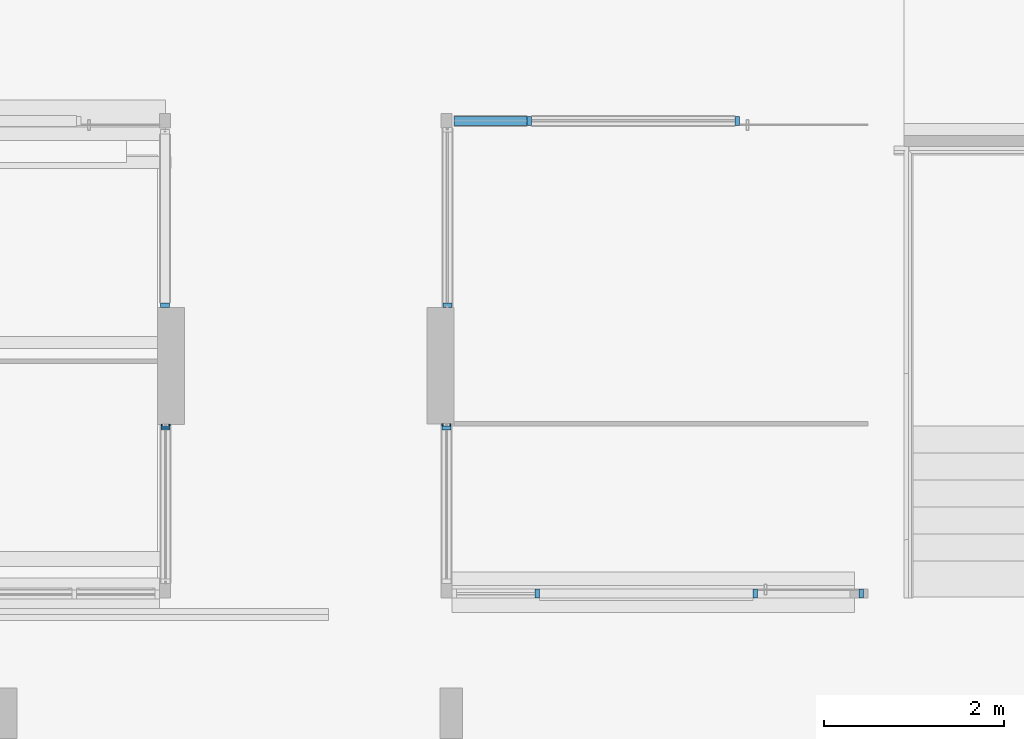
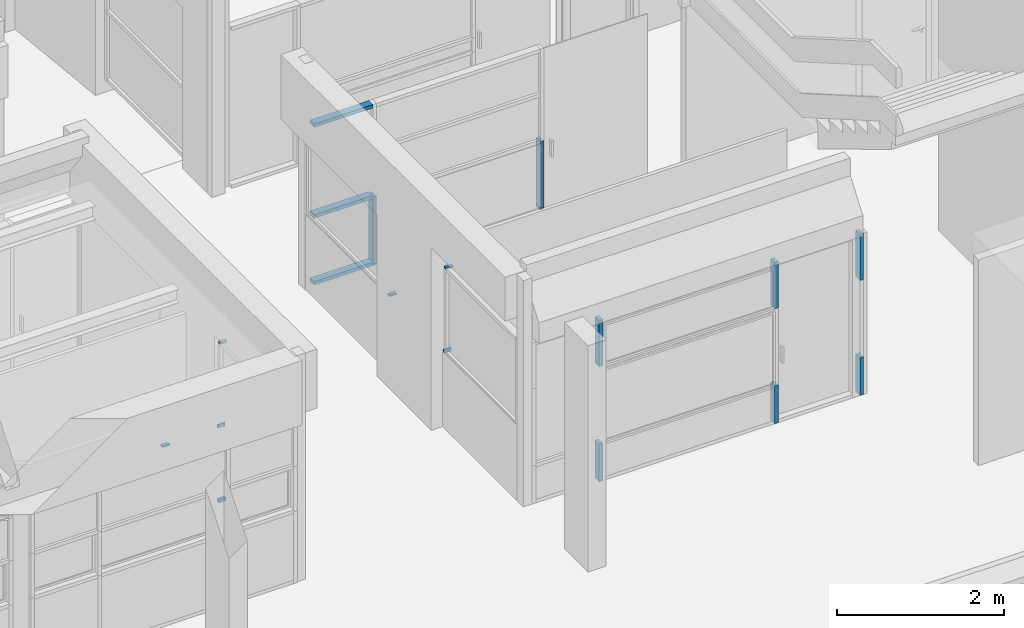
# One storey, part 24 of 117: 20 members, 6 elements without a shape of their own.
"""IFC4 building model written with IfcOpenShell, lengths in metres."""

from ifc_helpers import new_model, entity, si_unit, converted_unit, derived_unit, direction, frame, origin, place, context, subcontext, project, spatial, indexed_curve, outline, extrude, source, transform, mapped, material, type_object, type_shapes, element, aggregate, save


model = new_model("IFC4")

# Units and contexts
model_context = context("Model", 3, precision=1e-05, world=origin(), true_north=direction((6.123031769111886e-17, 1.0)))
body_context = subcontext(model_context, "Body", "Model", "MODEL_VIEW")
ifc_project = project(units=[si_unit("LENGTHUNIT", "METRE"), si_unit("AREAUNIT", "SQUARE_METRE"), si_unit("VOLUMEUNIT", "CUBIC_METRE"), converted_unit("PLANEANGLEUNIT", "DEGREE", entity("IfcRatioMeasure", 0.017453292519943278), si_unit("PLANEANGLEUNIT", "RADIAN"), dimensions=[0, 0, 0, 0, 0, 0, 0]), si_unit("MASSUNIT", "GRAM", prefix="KILO"), derived_unit("MASSDENSITYUNIT", [(si_unit("MASSUNIT", "GRAM", prefix="KILO"), 1), (si_unit("LENGTHUNIT", "METRE"), -3)]), derived_unit("MOMENTOFINERTIAUNIT", [(si_unit("LENGTHUNIT", "METRE"), 4)]), si_unit("TIMEUNIT", "SECOND"), si_unit("FREQUENCYUNIT", "HERTZ"), si_unit("THERMODYNAMICTEMPERATUREUNIT", "DEGREE_CELSIUS"), derived_unit("THERMALTRANSMITTANCEUNIT", [(si_unit("MASSUNIT", "GRAM", prefix="KILO"), 1), (si_unit("THERMODYNAMICTEMPERATUREUNIT", "KELVIN"), -1), (si_unit("TIMEUNIT", "SECOND"), -3)]), derived_unit("VOLUMETRICFLOWRATEUNIT", [(si_unit("LENGTHUNIT", "METRE"), 3), (si_unit("TIMEUNIT", "SECOND"), -1)]), derived_unit("MASSFLOWRATEUNIT", [(si_unit("MASSUNIT", "GRAM", prefix="KILO"), 1), (si_unit("TIMEUNIT", "SECOND"), -1)]), derived_unit("ROTATIONALFREQUENCYUNIT", [(si_unit("TIMEUNIT", "SECOND"), -1)]), si_unit("ELECTRICCURRENTUNIT", "AMPERE"), si_unit("ELECTRICVOLTAGEUNIT", "VOLT"), si_unit("POWERUNIT", "WATT"), si_unit("FORCEUNIT", "NEWTON", prefix="KILO"), si_unit("ILLUMINANCEUNIT", "LUX"), si_unit("LUMINOUSFLUXUNIT", "LUMEN"), si_unit("LUMINOUSINTENSITYUNIT", "CANDELA"), derived_unit("USERDEFINED", [(si_unit("MASSUNIT", "GRAM", prefix="KILO"), -1), (si_unit("LENGTHUNIT", "METRE"), -2), (si_unit("TIMEUNIT", "SECOND"), 3), (si_unit("LUMINOUSFLUXUNIT", "LUMEN"), 1)]), derived_unit("SOUNDPOWERUNIT", [(si_unit("MASSUNIT", "GRAM", prefix="KILO"), 1), (si_unit("LENGTHUNIT", "METRE"), 2), (si_unit("TIMEUNIT", "SECOND"), -3)]), derived_unit("SOUNDPRESSUREUNIT", [(si_unit("MASSUNIT", "GRAM", prefix="KILO"), 1), (si_unit("LENGTHUNIT", "METRE"), -1), (si_unit("TIMEUNIT", "SECOND"), -2)]), derived_unit("LINEARVELOCITYUNIT", [(si_unit("LENGTHUNIT", "METRE"), 1), (si_unit("TIMEUNIT", "SECOND"), -1)]), si_unit("PRESSUREUNIT", "PASCAL"), derived_unit("USERDEFINED", [(si_unit("LENGTHUNIT", "METRE"), -2), (si_unit("MASSUNIT", "GRAM", prefix="KILO"), 1), (si_unit("TIMEUNIT", "SECOND"), -2)]), derived_unit("LINEARFORCEUNIT", [(si_unit("MASSUNIT", "GRAM", prefix="KILO"), 1), (si_unit("LENGTHUNIT", "METRE"), 1), (si_unit("TIMEUNIT", "SECOND"), -2), (si_unit("LENGTHUNIT", "METRE"), -1)]), derived_unit("PLANARFORCEUNIT", [(si_unit("MASSUNIT", "GRAM", prefix="KILO"), 1), (si_unit("LENGTHUNIT", "METRE"), 1), (si_unit("TIMEUNIT", "SECOND"), -2), (si_unit("LENGTHUNIT", "METRE"), -2)])], contexts=[model_context])

# Site, building, storey
site_placement = place(None, origin())
site = spatial("IfcSite", under=ifc_project, at=site_placement, Name="Superficie", CompositionType="ELEMENT")
building_placement = place(site_placement, origin())
building = spatial("IfcBuilding", under=site, at=building_placement, CompositionType="ELEMENT")
storey_placement = place(building_placement, origin())
storey = spatial("IfcBuildingStorey", under=building, at=storey_placement, Name="Nivel 0", CompositionType="ELEMENT", Elevation=0.0)

# Curtain wall, members
curtain_wall_type = type_object("IfcCurtainWallType", Name="Muro cortina:Muro cortina - simple", PredefinedType="NOTDEFINED")
curtain_wall_1_placement = place(storey_placement, origin())
curtain_wall_1 = element("IfcCurtainWall", 1, at=curtain_wall_1_placement, inside=storey, type_object=curtain_wall_type, Name="Muro cortina:Muro cortina - simple", ObjectType="Muro cortina:Muro cortina - simple", PredefinedType="NOTDEFINED")
ifc_material = material(Name="<Unnamed>")
member_type_1 = type_object("IfcMemberType", Name="Montante rectangular:Montante rectangular - 5 x 10 cm", PredefinedType="MULLION", material=ifc_material)
shared_shape_1 = source(origin(), body_context, "Body", "SweptSolid", [
    extrude(outline(indexed_curve([(-0.05, -0.025), (0.05, -0.025), (0.05, 0.025), (-0.05, 0.025), (-0.05, -0.025)], self_intersect=False)), frame((0.0, 0.0, -0.014999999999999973), z_axis=(0.0, 0.0, 1.0), x_axis=(0.0, -1.0, 0.0)), (0.0, 0.0, 1.0), 0.014999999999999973),
])
type_shapes(member_type_1, [shared_shape_1])
member_1_placement = place(curtain_wall_1_placement, frame((12.786799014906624, 0.14082928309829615, 1.1000000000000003), z_axis=(0.0, -1.0, 0.0), x_axis=(0.0, 0.0, 1.0)))
member_1 = element("IfcMember", 2, at=member_1_placement, type_object=member_type_1, material=ifc_material, Name="Montante rectangular:Montante rectangular - 5 x 10 cm", ObjectType="Montante rectangular:Montante rectangular - 5 x 10 cm", PredefinedType="MULLION", context=body_context, shape_type="MappedRepresentation", body=[
    mapped(shared_shape_1, transform((0.0, 0.0, 0.0), scale=1.0)),
])
member_type_2 = type_object("IfcMemberType", Name="Montante rectangular:Montante rectangular - 5 x 10 cm", PredefinedType="MULLION", material=ifc_material)
shared_shape_2 = source(origin(), body_context, "Body", "SweptSolid", [
    extrude(outline(indexed_curve([(-0.05, -0.025), (0.05, -0.025), (0.05, 0.025), (-0.05, 0.025), (-0.05, -0.025)], self_intersect=False)), frame((0.0, 0.0, -0.025), z_axis=(0.0, 0.0, 1.0), x_axis=(0.0, -1.0, 0.0)), (0.0, 0.0, 1.0), 0.025),
])
type_shapes(member_type_2, [shared_shape_2])
member_2_placement = place(curtain_wall_1_placement, frame((12.786799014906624, 0.11582928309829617, 2.3249999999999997), z_axis=(0.0, 0.0, -1.0), x_axis=(0.0, -1.0, 0.0)))
member_2 = element("IfcMember", 3, at=member_2_placement, type_object=member_type_2, material=ifc_material, Name="Montante rectangular:Montante rectangular - 5 x 10 cm", ObjectType="Montante rectangular:Montante rectangular - 5 x 10 cm", PredefinedType="MULLION", context=body_context, shape_type="MappedRepresentation", body=[
    mapped(shared_shape_2, transform((0.0, 0.0, 0.0), scale=1.0)),
])

# Curtain wall, member
curtain_wall_2_placement = place(storey_placement, origin())
curtain_wall_2 = element("IfcCurtainWall", 4, at=curtain_wall_2_placement, inside=storey, type_object=curtain_wall_type, Name="Muro cortina:Muro cortina - simple", ObjectType="Muro cortina:Muro cortina - simple", PredefinedType="NOTDEFINED")
member_3_placement = place(curtain_wall_2_placement, frame((15.906799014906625, 0.11582928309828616, 2.3249999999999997), z_axis=(0.0, 0.0, -1.0), x_axis=(0.0, -1.0, 0.0)))
member_3 = element("IfcMember", 5, at=member_3_placement, type_object=member_type_2, material=ifc_material, Name="Montante rectangular:Montante rectangular - 5 x 10 cm", ObjectType="Montante rectangular:Montante rectangular - 5 x 10 cm", PredefinedType="MULLION", context=body_context, shape_type="MappedRepresentation", body=[
    mapped(shared_shape_2, transform((0.0, 0.0, 0.0), scale=1.0)),
])

# Member
member_type_3 = type_object("IfcMemberType", Name="Montante rectangular:Montante rectangular - 5 x 10 cm", PredefinedType="MULLION", material=ifc_material)
shared_shape_3 = source(origin(), body_context, "Body", "SweptSolid", [
    extrude(outline(indexed_curve([(-0.05, -0.025), (0.05, -0.025), (0.05, 0.025), (-0.05, 0.025), (-0.05, -0.025)], self_intersect=False)), frame((-0.025, 0.0, -0.04000000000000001), z_axis=(0.0, 0.0, 1.0), x_axis=(0.0, -1.0, 0.0)), (0.0, 0.0, 1.0), 0.04000000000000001),
])
type_shapes(member_type_3, [shared_shape_3])
member_4_placement = place(curtain_wall_1_placement, frame((12.786799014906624, 0.1558292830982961, 0.0), z_axis=(0.0, 1.0, 0.0), x_axis=(0.0, 0.0, -1.0)))
member_4 = element("IfcMember", 6, at=member_4_placement, type_object=member_type_3, material=ifc_material, Name="Montante rectangular:Montante rectangular - 5 x 10 cm", ObjectType="Montante rectangular:Montante rectangular - 5 x 10 cm", PredefinedType="MULLION", context=body_context, shape_type="MappedRepresentation", body=[
    mapped(shared_shape_3, transform((0.0, 0.0, 0.0), scale=1.0)),
])

aggregate(curtain_wall_1, [member_1, member_2, member_4])

# Curtain wall, member
curtain_wall_3_placement = place(storey_placement, origin())
curtain_wall_3 = element("IfcCurtainWall", 7, at=curtain_wall_3_placement, inside=storey, type_object=curtain_wall_type, Name="Muro cortina:Muro cortina - simple", ObjectType="Muro cortina:Muro cortina - simple", PredefinedType="NOTDEFINED")
member_type_4 = type_object("IfcMemberType", Name="Montante rectangular:Montante rectangular - 5 x 10 cm", PredefinedType="MULLION", material=ifc_material)
shared_shape_4 = source(origin(), body_context, "Body", "SweptSolid", [
    extrude(outline(indexed_curve([(-0.05, -0.025), (0.05, -0.025), (0.05, 0.025), (-0.05, 0.025), (-0.05, -0.025)], self_intersect=False)), frame((0.0, 0.0, -0.019999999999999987), z_axis=(0.0, 0.0, 1.0), x_axis=(0.0, -1.0, 0.0)), (0.0, 0.0, 1.0), 0.019999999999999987),
])
type_shapes(member_type_4, [shared_shape_4])
member_5_placement = place(curtain_wall_3_placement, frame((12.781799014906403, 1.4758292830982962, 0.0), z_axis=(0.0, 0.0, -1.0), x_axis=(0.0, -1.0, 0.0)))
member_5 = element("IfcMember", 8, at=member_5_placement, type_object=member_type_4, material=ifc_material, Name="Montante rectangular:Montante rectangular - 5 x 10 cm", ObjectType="Montante rectangular:Montante rectangular - 5 x 10 cm", PredefinedType="MULLION", context=body_context, shape_type="MappedRepresentation", body=[
    mapped(shared_shape_4, transform((0.0, 0.0, 0.0), scale=1.0)),
])
aggregate(curtain_wall_3, [member_5])

curtain_wall_4_placement = place(storey_placement, origin())
curtain_wall_4 = element("IfcCurtainWall", 9, at=curtain_wall_4_placement, inside=storey, type_object=curtain_wall_type, Name="Muro cortina:Muro cortina - simple", ObjectType="Muro cortina:Muro cortina - simple", PredefinedType="NOTDEFINED")
member_6_placement = place(curtain_wall_4_placement, frame((15.916799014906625, 1.4808292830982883, 1.1), z_axis=(0.0, 0.0, -1.0), x_axis=(0.0, -1.0, 0.0)))
member_6 = element("IfcMember", 10, at=member_6_placement, type_object=member_type_4, material=ifc_material, Name="Montante rectangular:Montante rectangular - 5 x 10 cm", ObjectType="Montante rectangular:Montante rectangular - 5 x 10 cm", PredefinedType="MULLION", context=body_context, shape_type="MappedRepresentation", body=[
    mapped(shared_shape_4, transform((0.0, 0.0, 0.0), scale=1.0)),
])
aggregate(curtain_wall_4, [member_6])

# Member
member_type_5 = type_object("IfcMemberType", Name="Montante rectangular:Montante rectangular - 5 x 10 cm", PredefinedType="MULLION", material=ifc_material)
shared_shape_5 = source(origin(), body_context, "Body", "SweptSolid", [
    extrude(outline(indexed_curve([(-0.05, -0.025), (0.05, -0.025), (0.05, 0.025), (-0.05, 0.025), (-0.05, -0.025)], self_intersect=False)), frame((0.0, 0.0, -0.020000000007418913), z_axis=(0.0, 0.0, 1.0), x_axis=(0.0, -1.0, 0.0)), (0.0, 0.0, 1.0), 0.020000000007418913),
])
type_shapes(member_type_5, [shared_shape_5])
member_7_placement = place(curtain_wall_2_placement, frame((15.906799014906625, 0.14082928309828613, 1.0999999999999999), z_axis=(0.0, -1.0, 0.0), x_axis=(0.0, 0.0, 1.0)))
member_7 = element("IfcMember", 11, at=member_7_placement, type_object=member_type_5, material=ifc_material, Name="Montante rectangular:Montante rectangular - 5 x 10 cm", ObjectType="Montante rectangular:Montante rectangular - 5 x 10 cm", PredefinedType="MULLION", context=body_context, shape_type="MappedRepresentation", body=[
    mapped(shared_shape_5, transform((0.0, 0.0, 0.0), scale=1.0)),
])

aggregate(curtain_wall_2, [member_7, member_3])

# Curtain wall, members
curtain_wall_5_placement = place(storey_placement, origin())
curtain_wall_5 = element("IfcCurtainWall", 12, at=curtain_wall_5_placement, inside=storey, type_object=curtain_wall_type, Name="Muro cortina:Muro cortina - simple", ObjectType="Muro cortina:Muro cortina - simple", PredefinedType="NOTDEFINED")
member_type_6 = type_object("IfcMemberType", Name="Montante rectangular:Montante rectangular - 5 x 10 cm", PredefinedType="MULLION", material=ifc_material)
shared_shape_6 = source(origin(), body_context, "Body", "SweptSolid", [
    extrude(outline(indexed_curve([(-0.05, -0.025), (0.05, -0.025), (0.05, 0.025), (-0.05, 0.025), (-0.05, -0.025)], self_intersect=False)), frame((0.0, 0.0, -0.809202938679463), z_axis=(0.0, 0.0, 1.0), x_axis=(0.0, -1.0, 0.0)), (0.0, 0.0, 1.0), 0.8092029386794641),
])
type_shapes(member_type_6, [shared_shape_6])
member_8_placement = place(curtain_wall_5_placement, frame((15.991799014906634, 3.525713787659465, 2.3249999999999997), z_axis=(-1.0, 0.0, 0.0), x_axis=(0.0, 0.0, 1.0)))
member_8 = element("IfcMember", 13, at=member_8_placement, type_object=member_type_6, material=ifc_material, Name="Montante rectangular:Montante rectangular - 5 x 10 cm", ObjectType="Montante rectangular:Montante rectangular - 5 x 10 cm", PredefinedType="MULLION", context=body_context, shape_type="MappedRepresentation", body=[
    mapped(shared_shape_6, transform((0.0, 0.0, 0.0), scale=1.0)),
])
member_type_7 = type_object("IfcMemberType", Name="Montante rectangular:Montante rectangular - 5 x 10 cm", PredefinedType="MULLION", material=ifc_material)
shared_shape_7 = source(origin(), body_context, "Body", "SweptSolid", [
    extrude(outline(indexed_curve([(-0.05, -0.025), (0.05, -0.025), (0.05, 0.025), (-0.05, 0.025), (-0.05, -0.025)], self_intersect=False)), frame((0.0, 0.0, -0.025), z_axis=(0.0, 0.0, 1.0), x_axis=(0.0, -1.0, 0.0)), (0.0, 0.0, 1.0), 0.025),
])
type_shapes(member_type_7, [shared_shape_7])
member_9_placement = place(curtain_wall_5_placement, frame((19.13600195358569, 3.5257137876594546, 0.0), z_axis=(0.0, 0.0, -1.0), x_axis=(-1.0, 0.0, 0.0)))
member_9 = element("IfcMember", 14, at=member_9_placement, type_object=member_type_7, material=ifc_material, Name="Montante rectangular:Montante rectangular - 5 x 10 cm", ObjectType="Montante rectangular:Montante rectangular - 5 x 10 cm", PredefinedType="MULLION", context=body_context, shape_type="MappedRepresentation", body=[
    mapped(shared_shape_7, transform((0.0, 0.0, 0.0), scale=1.0)),
])
member_10_placement = place(curtain_wall_5_placement, frame((16.826001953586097, 3.525713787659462, 0.0), z_axis=(0.0, 0.0, -1.0), x_axis=(-1.0, 0.0, 0.0)))
member_10 = element("IfcMember", 15, at=member_10_placement, type_object=member_type_7, material=ifc_material, Name="Montante rectangular:Montante rectangular - 5 x 10 cm", ObjectType="Montante rectangular:Montante rectangular - 5 x 10 cm", PredefinedType="MULLION", context=body_context, shape_type="MappedRepresentation", body=[
    mapped(shared_shape_7, transform((0.0, 0.0, 0.0), scale=1.0)),
])
member_type_8 = type_object("IfcMemberType", Name="Montante rectangular:Montante rectangular - 5 x 10 cm", PredefinedType="MULLION", material=ifc_material)
shared_shape_8 = source(origin(), body_context, "Body", "SweptSolid", [
    extrude(outline(indexed_curve([(-0.05, -0.025), (0.05, -0.025), (0.05, 0.025), (-0.05, 0.025), (-0.05, -0.025)], self_intersect=False)), frame((0.0, 0.0, -0.8092029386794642), z_axis=(0.0, 0.0, 1.0), x_axis=(0.0, -1.0, 0.0)), (0.0, 0.0, 1.0), 0.8092029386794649),
])
type_shapes(member_type_8, [shared_shape_8])
member_11_placement = place(curtain_wall_5_placement, frame((15.991799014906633, 3.525713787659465, 1.0), z_axis=(-1.0, 0.0, 0.0), x_axis=(0.0, 0.0, 1.0)))
member_11 = element("IfcMember", 16, at=member_11_placement, type_object=member_type_8, material=ifc_material, Name="Montante rectangular:Montante rectangular - 5 x 10 cm", ObjectType="Montante rectangular:Montante rectangular - 5 x 10 cm", PredefinedType="MULLION", context=body_context, shape_type="MappedRepresentation", body=[
    mapped(shared_shape_8, transform((0.0, 0.0, 0.0), scale=1.0)),
])
member_12_placement = place(curtain_wall_5_placement, frame((15.991799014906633, 3.525713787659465, 0.025), z_axis=(-1.0, 0.0, 0.0), x_axis=(0.0, 0.0, 1.0)))
member_12 = element("IfcMember", 17, at=member_12_placement, type_object=member_type_8, material=ifc_material, Name="Montante rectangular:Montante rectangular - 5 x 10 cm", ObjectType="Montante rectangular:Montante rectangular - 5 x 10 cm", PredefinedType="MULLION", context=body_context, shape_type="MappedRepresentation", body=[
    mapped(shared_shape_8, transform((0.0, 0.0, 0.0), scale=1.0)),
])
member_type_9 = type_object("IfcMemberType", Name="Montante rectangular:Montante rectangular - 5 x 10 cm", PredefinedType="MULLION", material=ifc_material)
shared_shape_9 = source(origin(), body_context, "Body", "SweptSolid", [
    extrude(outline(indexed_curve([(-0.05, -0.025), (0.05, -0.025), (0.05, 0.025), (-0.05, 0.025), (-0.05, -0.025)], self_intersect=False)), frame((0.0, 0.0, -0.975), z_axis=(0.0, 0.0, 1.0), x_axis=(0.0, -1.0, 0.0)), (0.0, 0.0, 1.0), 0.975),
])
type_shapes(member_type_9, [shared_shape_9])
member_13_placement = place(curtain_wall_5_placement, frame((19.13600195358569, 3.5257137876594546, 0.025), z_axis=(0.0, 0.0, -1.0), x_axis=(-1.0, 0.0, 0.0)))
member_13 = element("IfcMember", 18, at=member_13_placement, type_object=member_type_9, material=ifc_material, Name="Montante rectangular:Montante rectangular - 5 x 10 cm", ObjectType="Montante rectangular:Montante rectangular - 5 x 10 cm", PredefinedType="MULLION", context=body_context, shape_type="MappedRepresentation", body=[
    mapped(shared_shape_9, transform((0.0, 0.0, 0.0), scale=1.0)),
])
member_14_placement = place(curtain_wall_5_placement, frame((16.826001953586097, 3.525713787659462, 0.025), z_axis=(0.0, 0.0, -1.0), x_axis=(-1.0, 0.0, 0.0)))
member_14 = element("IfcMember", 19, at=member_14_placement, type_object=member_type_9, material=ifc_material, Name="Montante rectangular:Montante rectangular - 5 x 10 cm", ObjectType="Montante rectangular:Montante rectangular - 5 x 10 cm", PredefinedType="MULLION", context=body_context, shape_type="MappedRepresentation", body=[
    mapped(shared_shape_9, transform((0.0, 0.0, 0.0), scale=1.0)),
])
aggregate(curtain_wall_5, [member_8, member_9, member_10, member_11, member_13, member_14, member_12])

curtain_wall_6_placement = place(storey_placement, origin())
curtain_wall_6 = element("IfcCurtainWall", 20, at=curtain_wall_6_placement, inside=storey, type_object=curtain_wall_type, Name="Muro cortina:Muro cortina - simple", ObjectType="Muro cortina:Muro cortina - simple", PredefinedType="NOTDEFINED")
member_type_10 = type_object("IfcMemberType", Name="Montante rectangular:Montante rectangular - 5 x 10 cm", PredefinedType="MULLION", material=ifc_material)
shared_shape_10 = source(origin(), body_context, "Body", "SweptSolid", [
    extrude(outline(indexed_curve([(-0.05, -0.025), (0.05, -0.025), (0.05, 0.025), (-0.05, 0.025), (-0.05, -0.025)], self_intersect=False)), frame((-0.025, 0.0, -0.675), z_axis=(0.0, 0.0, 1.0), x_axis=(0.0, -1.0, 0.0)), (0.0, 0.0, 1.0), 0.675),
])
type_shapes(member_type_10, [shared_shape_10])
member_15_placement = place(curtain_wall_6_placement, frame((20.53679901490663, -1.7241707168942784, 2.35)))
member_15 = element("IfcMember", 21, at=member_15_placement, type_object=member_type_10, material=ifc_material, Name="Montante rectangular:Montante rectangular - 5 x 10 cm", ObjectType="Montante rectangular:Montante rectangular - 5 x 10 cm", PredefinedType="MULLION", context=body_context, shape_type="MappedRepresentation", body=[
    mapped(shared_shape_10, transform((0.0, 0.0, 0.0), scale=1.0)),
])
member_type_11 = type_object("IfcMemberType", Name="Montante rectangular:Montante rectangular - 5 x 10 cm", PredefinedType="MULLION", material=ifc_material)
shared_shape_11 = source(origin(), body_context, "Body", "SweptSolid", [
    extrude(outline(indexed_curve([(-0.05, -0.025), (0.05, -0.025), (0.05, 0.025), (-0.05, 0.025), (-0.05, -0.025)], self_intersect=False)), frame((-0.025, 0.0, -0.5499999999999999), z_axis=(0.0, 0.0, 1.0), x_axis=(0.0, -1.0, 0.0)), (0.0, 0.0, 1.0), 0.5499999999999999),
])
type_shapes(member_type_11, [shared_shape_11])
member_16_placement = place(curtain_wall_6_placement, frame((20.53679901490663, -1.7241707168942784, 0.5499999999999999)))
member_16 = element("IfcMember", 22, at=member_16_placement, type_object=member_type_11, material=ifc_material, Name="Montante rectangular:Montante rectangular - 5 x 10 cm", ObjectType="Montante rectangular:Montante rectangular - 5 x 10 cm", PredefinedType="MULLION", context=body_context, shape_type="MappedRepresentation", body=[
    mapped(shared_shape_11, transform((0.0, 0.0, 0.0), scale=1.0)),
])
member_type_12 = type_object("IfcMemberType", Name="Montante rectangular:Montante rectangular - 5 x 10 cm", PredefinedType="MULLION", material=ifc_material)
shared_shape_12 = source(origin(), body_context, "Body", "SweptSolid", [
    extrude(outline(indexed_curve([(-0.05, -0.025), (0.05, -0.025), (0.05, 0.025), (-0.05, 0.025), (-0.05, -0.025)], self_intersect=False)), frame((0.0, 0.0, -0.55), z_axis=(0.0, 0.0, 1.0), x_axis=(0.0, -1.0, 0.0)), (0.0, 0.0, 1.0), 0.55),
])
type_shapes(member_type_12, [shared_shape_12])
member_17_placement = place(curtain_wall_6_placement, frame((16.916799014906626, -1.7241707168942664, 0.0), z_axis=(0.0, 0.0, -1.0), x_axis=(-1.0, 0.0, 0.0)))
member_17 = element("IfcMember", 23, at=member_17_placement, type_object=member_type_12, material=ifc_material, Name="Montante rectangular:Montante rectangular - 5 x 10 cm", ObjectType="Montante rectangular:Montante rectangular - 5 x 10 cm", PredefinedType="MULLION", context=body_context, shape_type="MappedRepresentation", body=[
    mapped(shared_shape_12, transform((0.0, 0.0, 0.0), scale=1.0)),
])
member_18_placement = place(curtain_wall_6_placement, frame((19.336799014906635, -1.7241707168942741, 0.0), z_axis=(0.0, 0.0, -1.0), x_axis=(-1.0, 0.0, 0.0)))
member_18 = element("IfcMember", 24, at=member_18_placement, type_object=member_type_12, material=ifc_material, Name="Montante rectangular:Montante rectangular - 5 x 10 cm", ObjectType="Montante rectangular:Montante rectangular - 5 x 10 cm", PredefinedType="MULLION", context=body_context, shape_type="MappedRepresentation", body=[
    mapped(shared_shape_12, transform((0.0, 0.0, 0.0), scale=1.0)),
])
member_type_13 = type_object("IfcMemberType", Name="Montante rectangular:Montante rectangular - 5 x 10 cm", PredefinedType="MULLION", material=ifc_material)
shared_shape_13 = source(origin(), body_context, "Body", "SweptSolid", [
    extrude(outline(indexed_curve([(-0.05, -0.025), (0.05, -0.025), (0.05, 0.025), (-0.05, 0.025), (-0.05, -0.025)], self_intersect=False)), frame((0.0, 0.0, -0.675), z_axis=(0.0, 0.0, 1.0), x_axis=(0.0, -1.0, 0.0)), (0.0, 0.0, 1.0), 0.675),
])
type_shapes(member_type_13, [shared_shape_13])
member_19_placement = place(curtain_wall_6_placement, frame((16.916799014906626, -1.7241707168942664, 1.675), z_axis=(0.0, 0.0, -1.0), x_axis=(-1.0, 0.0, 0.0)))
member_19 = element("IfcMember", 25, at=member_19_placement, type_object=member_type_13, material=ifc_material, Name="Montante rectangular:Montante rectangular - 5 x 10 cm", ObjectType="Montante rectangular:Montante rectangular - 5 x 10 cm", PredefinedType="MULLION", context=body_context, shape_type="MappedRepresentation", body=[
    mapped(shared_shape_13, transform((0.0, 0.0, 0.0), scale=1.0)),
])
member_20_placement = place(curtain_wall_6_placement, frame((19.336799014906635, -1.7241707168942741, 1.675), z_axis=(0.0, 0.0, -1.0), x_axis=(-1.0, 0.0, 0.0)))
member_20 = element("IfcMember", 26, at=member_20_placement, type_object=member_type_13, material=ifc_material, Name="Montante rectangular:Montante rectangular - 5 x 10 cm", ObjectType="Montante rectangular:Montante rectangular - 5 x 10 cm", PredefinedType="MULLION", context=body_context, shape_type="MappedRepresentation", body=[
    mapped(shared_shape_13, transform((0.0, 0.0, 0.0), scale=1.0)),
])
aggregate(curtain_wall_6, [member_15, member_16, member_17, member_18, member_19, member_20])

save(model, "model.ifc")
